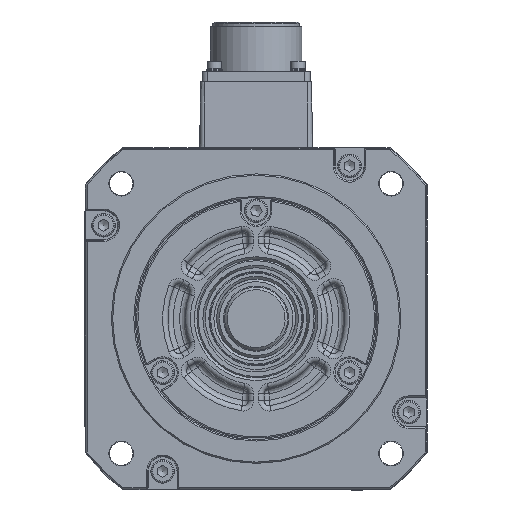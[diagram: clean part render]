
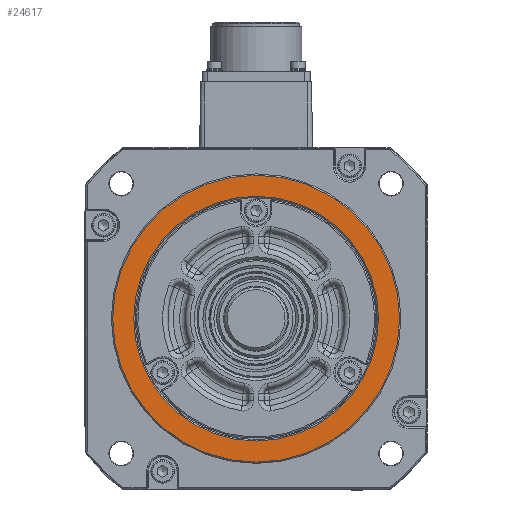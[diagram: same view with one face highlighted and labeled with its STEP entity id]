
A CAD part, front view. The second image highlights one B-rep face of the part: STEP entity #24617.
In plain terms, the highlighted planar face has unit normal (0, -1, 0).
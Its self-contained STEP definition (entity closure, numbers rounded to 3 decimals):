
#3637=CARTESIAN_POINT('',(54.5,-110.0,0.));
#3638=VERTEX_POINT('',#3637);
#3639=CARTESIAN_POINT('',(0.,-110.0,0.));
#3640=DIRECTION('',(0.0,1.0,0.0));
#3641=DIRECTION('',(-1.0,0.0,0.0));
#3642=AXIS2_PLACEMENT_3D('',#3639,#3640,#3641);
#3643=CIRCLE('',#3642,54.5);
#3644=EDGE_CURVE('',#3638,#3638,#3643,.T.);
#3685=CARTESIAN_POINT('',(46.5,-110.0,0.));
#3686=VERTEX_POINT('',#3685);
#3687=CARTESIAN_POINT('',(0.,-110.0,0.));
#3688=DIRECTION('',(0.0,-1.0,0.0));
#3689=DIRECTION('',(-1.0,0.0,0.0));
#3690=AXIS2_PLACEMENT_3D('',#3687,#3688,#3689);
#3691=CIRCLE('',#3690,46.5);
#3692=EDGE_CURVE('',#3686,#3686,#3691,.T.);
#24606=CARTESIAN_POINT('',(0.,-110.0,0.));
#24607=DIRECTION('',(0.0,-1.0,0.0));
#24608=DIRECTION('',(0.0,0.0,-1.0));
#24609=AXIS2_PLACEMENT_3D('',#24606,#24607,#24608);
#24610=PLANE('',#24609);
#24611=ORIENTED_EDGE('',*,*,#3644,.F.);
#24612=EDGE_LOOP('',(#24611));
#24613=FACE_OUTER_BOUND('',#24612,.T.);
#24614=ORIENTED_EDGE('',*,*,#3692,.F.);
#24615=EDGE_LOOP('',(#24614));
#24616=FACE_BOUND('',#24615,.T.);
#24617=ADVANCED_FACE('',(#24613,#24616),#24610,.T.);
